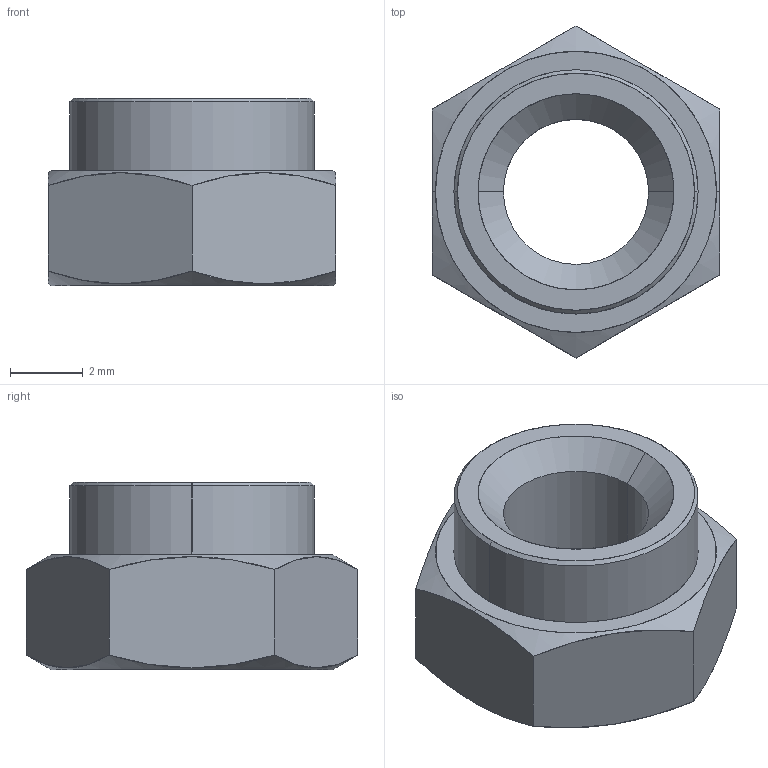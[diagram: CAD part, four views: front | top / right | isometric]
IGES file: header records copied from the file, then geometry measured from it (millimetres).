
Start section: SolidWorks IGES file using analytic representation for surfaces
Global section: file name: C:\Users\liam_\OneDrive\Desktop\Work\Mat Davis Pending 20181125\automotion\P SERIES\P0827.ZP_v2\P0827.ZP_v2_20181231_IGES\P0827.040-16G-ZP.igs; native system: SolidWorks 2017; preprocessor: SolidWorks 2017; author: liam_; date: 181231.110431; units: millimetre
Bounding box: 7.92 x 9.15 x 5.17 mm (x, y, z)
Surface area: 260.3 mm2 (no closed solid volume)
Topology: 0 solids, 0 shells, 23 faces, 376 edges, 376 vertices
Faces by surface type: revolution 14, bspline 9
